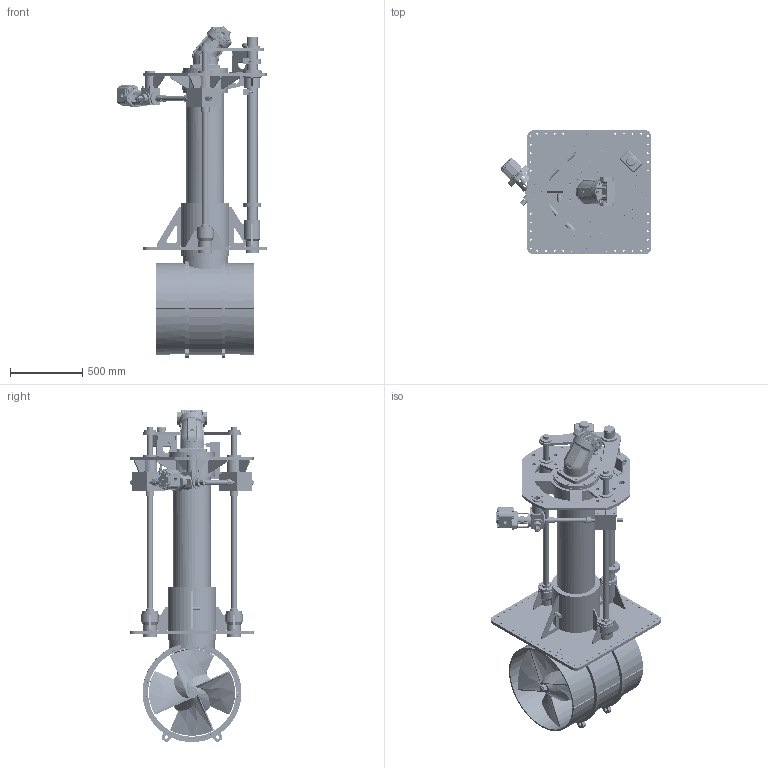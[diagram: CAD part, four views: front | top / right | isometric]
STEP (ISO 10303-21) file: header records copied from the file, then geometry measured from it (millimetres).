
FILE_DESCRIPTION(/* description */ (''),/* implementation_level */ '2;1');
FILE_NAME(/* name */ 'Q:\THRUSTERS\THRUSTER SALES & SUPPORT DOCS\THRUSTER Sales\H-V\H-0600-V\H-0600-V-RETRACTED.stp',/* time_stamp */ '2020-03-17T14:02:43+00:00',/* author */ ('charlotte.richardson'),/* organization */ (''),/* preprocessor_version */ 'ST-DEVELOPER v17',/* originating_system */ 'Autodesk Inventor 2019',/* authorisation */ '');
FILE_SCHEMA (('AUTOMOTIVE_DESIGN { 1 0 10303 214 3 1 1 }'));
Products named in the file (1): H-0600-V_Shrinkwrap_1
Bounding box: 1043.59 x 862.67 x 2300.99 mm (x, y, z)
Volume: 133130079.5 mm3; surface area: 13059255.1 mm2
Topology: 9 solids, 9 shells, 5100 faces, 13367 edges, 8597 vertices
Faces by surface type: plane 2216, bspline 1249, cylinder 1099, cone 394, torus 116, sphere 26
Full cylindrical faces by diameter (mm): 3 x3, 4 x8, 4.2 x2, 5 x2, 7.2 x2, 8 x4, 9 x1, 9.525 x2, 10.25 x36, 10.3 x32, 10.5 x16, 12 x11, 12.4 x10, 12.5 x20, 13 x66, 13.376 x1, 13.44 x1, 14.287 x1, 14.3 x1, 14.32 x2, 15.25 x6, 15.8 x13, 16 x18, 16.5 x4, 17 x19, 17.5 x5, 18 x4, 18.25 x2, 18.376 x2, 19 x12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
Entity records: 252433 total; most frequent: CARTESIAN_POINT 128146, ORIENTED_EDGE 26542, DIRECTION 21875, EDGE_CURVE 13271, VERTEX_POINT 8596, AXIS2_PLACEMENT_3D 7738, LINE 6399, VECTOR 6399
